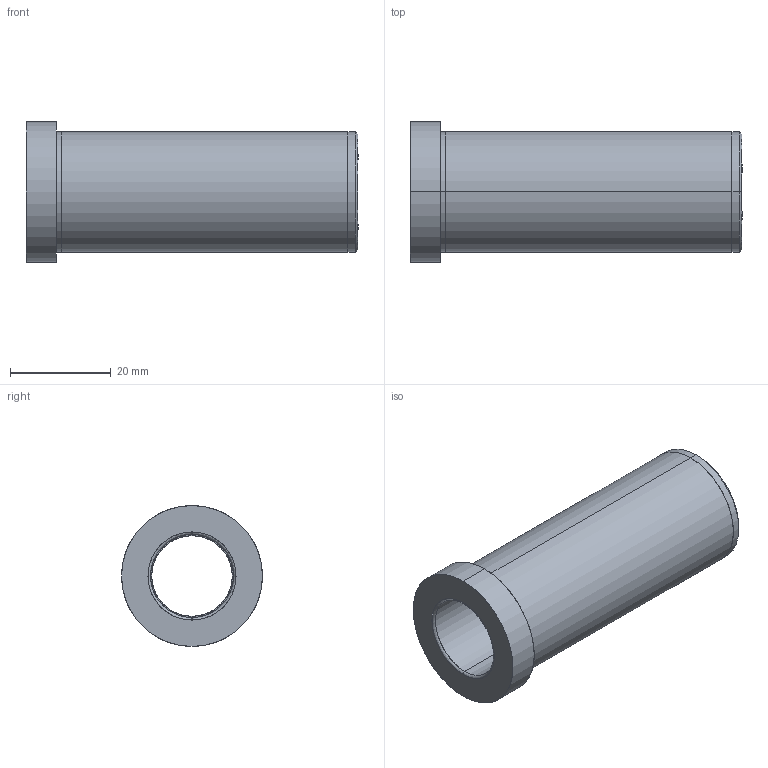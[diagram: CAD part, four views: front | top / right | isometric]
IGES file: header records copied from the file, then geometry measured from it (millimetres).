
Start section: SolidWorks IGES file using analytic representation for surfaces
Global section: file name: C:\Documents and Settings\kalite-mail\Desktop\IGS\D20\D20 - 16x66.IGS; native system: SolidWorks 2008; preprocessor: SolidWorks 2008; author: kalite-mail; date: 080617.113422; units: millimetre
Bounding box: 66 x 28 x 28 mm (x, y, z)
Surface area: 9187.8 mm2 (no closed solid volume)
Topology: 0 solids, 0 shells, 24 faces, 520 edges, 520 vertices
Faces by surface type: revolution 14, bspline 10
